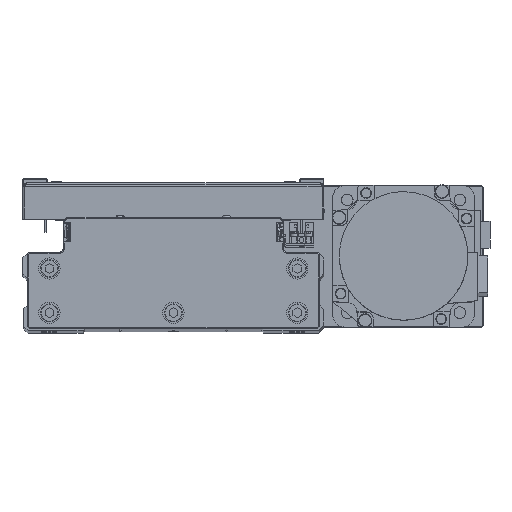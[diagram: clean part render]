
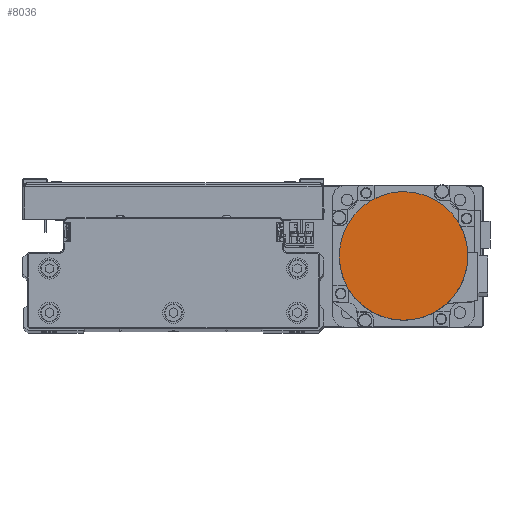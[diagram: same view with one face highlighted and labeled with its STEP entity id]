
A CAD part, top view. The second image highlights one B-rep face of the part: STEP entity #8036.
In plain terms, the highlighted planar face has unit normal (0, 0, 1) as drawn and (0, 0, -1) by its records, which use the part's own axes.
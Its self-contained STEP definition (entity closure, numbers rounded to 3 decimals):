
#1290 = CARTESIAN_POINT ( 'NONE',  ( 0., 0., -122.2 ) ) ;
#1441 = CARTESIAN_POINT ( 'NONE',  ( 36.3, 0., -122.2 ) ) ;
#2137 = CARTESIAN_POINT ( 'NONE',  ( -28.862, -22.143, -122.2 ) ) ;
#2576 = CARTESIAN_POINT ( 'NONE',  ( -32.628, 16.086, -122.2 ) ) ;
#3534 = AXIS2_PLACEMENT_3D ( 'NONE', #38406, #7380, #21234 ) ;
#4077 = CIRCLE ( 'NONE', #29424, 36.3 ) ;
#5556 = CARTESIAN_POINT ( 'NONE',  ( -34.446, -11.696, -122.2 ) ) ;
#5764 = CARTESIAN_POINT ( 'NONE',  ( 0., -36.3, -122.2 ) ) ;
#5987 = CARTESIAN_POINT ( 'NONE',  ( -27.348, 23.988, -122.2 ) ) ;
#6119 = VERTEX_POINT ( 'NONE', #19937 ) ;
#7000 = DIRECTION ( 'NONE',  ( -1., 0., 0. ) ) ;
#7380 = DIRECTION ( 'NONE',  ( 0., 0., 1. ) ) ;
#8036 = ADVANCED_FACE ( 'NONE', ( #10769 ), #24606, .F. ) ;
#8970 = CARTESIAN_POINT ( 'NONE',  ( -36.3, -2.376, -122.2 ) ) ;
#9182 = CARTESIAN_POINT ( 'NONE',  ( -9.412, -35.139, -122.2 ) ) ;
#9241 = EDGE_CURVE ( 'NONE', #6119, #22211, #37917, .T. ) ;
#9363 = CARTESIAN_POINT ( 'NONE',  ( -18.192, 31.502, -122.2 ) ) ;
#9697 = CARTESIAN_POINT ( 'NONE',  ( -36.3, 0., -122.2 ) ) ;
#9946 = EDGE_CURVE ( 'NONE', #18003, #11488, #4077, .T. ) ;
#10769 = FACE_OUTER_BOUND ( 'NONE', #30146, .T. ) ;
#10836 = EDGE_CURVE ( 'NONE', #11488, #6119, #15613, .T. ) ;
#11488 = VERTEX_POINT ( 'NONE', #1441 ) ;
#12593 = CARTESIAN_POINT ( 'NONE',  ( -18.192, -31.502, -122.2 ) ) ;
#12780 = CARTESIAN_POINT ( 'NONE',  ( -9.412, 35.139, -122.2 ) ) ;
#12995 = CARTESIAN_POINT ( 'NONE',  ( -36.3, 2.376, -122.2 ) ) ;
#13093 = B_SPLINE_CURVE_WITH_KNOTS ( 'NONE', 3,
 ( #40008, #8970, #22806, #36604, #5556, #19407, #33198, #2137, #15987, #29812, #43632, #12593, #26430, #40224, #9182, #23014, #36805, #5764 ),
 .UNSPECIFIED., .F., .F.,
 ( 4, 2, 2, 2, 2, 2, 2, 2, 4 ),
 ( 0., 0.125, 0.25, 0.375, 0.5, 0.625, 0.75, 0.875, 1. ),
 .UNSPECIFIED. ) ;
#15125 = DIRECTION ( 'NONE',  ( 0., 0., 1. ) ) ;
#15613 = CIRCLE ( 'NONE', #40937, 36.3 ) ;
#15987 = CARTESIAN_POINT ( 'NONE',  ( -27.348, -23.988, -122.2 ) ) ;
#16205 = CARTESIAN_POINT ( 'NONE',  ( 0., 36.3, -122.2 ) ) ;
#16430 = CARTESIAN_POINT ( 'NONE',  ( -34.446, 11.696, -122.2 ) ) ;
#18003 = VERTEX_POINT ( 'NONE', #27472 ) ;
#19407 = CARTESIAN_POINT ( 'NONE',  ( -32.628, -16.086, -122.2 ) ) ;
#19441 = ORIENTED_EDGE ( 'NONE', *, *, #9946, .F. ) ;
#19845 = CARTESIAN_POINT ( 'NONE',  ( -28.862, 22.143, -122.2 ) ) ;
#19937 = CARTESIAN_POINT ( 'NONE',  ( 0., 36.3, -122.2 ) ) ;
#21234 = DIRECTION ( 'NONE',  ( 1., 0., 0. ) ) ;
#22211 = VERTEX_POINT ( 'NONE', #9697 ) ;
#22382 = ORIENTED_EDGE ( 'NONE', *, *, #9241, .F. ) ;
#22806 = CARTESIAN_POINT ( 'NONE',  ( -36.066, -4.752, -122.2 ) ) ;
#23014 = CARTESIAN_POINT ( 'NONE',  ( -4.752, -36.066, -122.2 ) ) ;
#23200 = CARTESIAN_POINT ( 'NONE',  ( -22.143, 28.862, -122.2 ) ) ;
#23749 = EDGE_CURVE ( 'NONE', #22211, #18003, #13093, .T. ) ;
#24227 = CARTESIAN_POINT ( 'NONE',  ( 0., 0., -122.2 ) ) ;
#24606 = PLANE ( 'NONE',  #3534 ) ;
#26430 = CARTESIAN_POINT ( 'NONE',  ( -16.086, -32.628, -122.2 ) ) ;
#26622 = CARTESIAN_POINT ( 'NONE',  ( -11.696, 34.446, -122.2 ) ) ;
#26830 = CARTESIAN_POINT ( 'NONE',  ( -36.3, 0., -122.2 ) ) ;
#27472 = CARTESIAN_POINT ( 'NONE',  ( 0., -36.3, -122.2 ) ) ;
#28949 = DIRECTION ( 'NONE',  ( -1., 0., 0. ) ) ;
#29424 = AXIS2_PLACEMENT_3D ( 'NONE', #1290, #15125, #28949 ) ;
#29812 = CARTESIAN_POINT ( 'NONE',  ( -23.988, -27.348, -122.2 ) ) ;
#30021 = CARTESIAN_POINT ( 'NONE',  ( -2.376, 36.3, -122.2 ) ) ;
#30146 = EDGE_LOOP ( 'NONE', ( #19441, #36954, #22382, #34134 ) ) ;
#30238 = CARTESIAN_POINT ( 'NONE',  ( -35.139, 9.412, -122.2 ) ) ;
#33198 = CARTESIAN_POINT ( 'NONE',  ( -31.502, -18.192, -122.2 ) ) ;
#33634 = CARTESIAN_POINT ( 'NONE',  ( -31.502, 18.192, -122.2 ) ) ;
#34134 = ORIENTED_EDGE ( 'NONE', *, *, #10836, .F. ) ;
#36604 = CARTESIAN_POINT ( 'NONE',  ( -35.139, -9.412, -122.2 ) ) ;
#36805 = CARTESIAN_POINT ( 'NONE',  ( -2.376, -36.3, -122.2 ) ) ;
#36954 = ORIENTED_EDGE ( 'NONE', *, *, #23749, .F. ) ;
#37005 = CARTESIAN_POINT ( 'NONE',  ( -23.988, 27.348, -122.2 ) ) ;
#37917 = B_SPLINE_CURVE_WITH_KNOTS ( 'NONE', 3,
 ( #16205, #30021, #43828, #12780, #26622, #40407, #9363, #23200, #37005, #5987, #19845, #33634, #2576, #16430, #30238, #44041, #12995, #26830 ),
 .UNSPECIFIED., .F., .F.,
 ( 4, 2, 2, 2, 2, 2, 2, 2, 4 ),
 ( 0., 0.125, 0.25, 0.375, 0.5, 0.625, 0.75, 0.875, 1. ),
 .UNSPECIFIED. ) ;
#38034 = DIRECTION ( 'NONE',  ( 0., 0., 1. ) ) ;
#38406 = CARTESIAN_POINT ( 'NONE',  ( 0., 0., -122.2 ) ) ;
#40008 = CARTESIAN_POINT ( 'NONE',  ( -36.3, 0., -122.2 ) ) ;
#40224 = CARTESIAN_POINT ( 'NONE',  ( -11.696, -34.446, -122.2 ) ) ;
#40407 = CARTESIAN_POINT ( 'NONE',  ( -16.086, 32.628, -122.2 ) ) ;
#40937 = AXIS2_PLACEMENT_3D ( 'NONE', #24227, #38034, #7000 ) ;
#43632 = CARTESIAN_POINT ( 'NONE',  ( -22.143, -28.862, -122.2 ) ) ;
#43828 = CARTESIAN_POINT ( 'NONE',  ( -4.752, 36.066, -122.2 ) ) ;
#44041 = CARTESIAN_POINT ( 'NONE',  ( -36.066, 4.752, -122.2 ) ) ;
